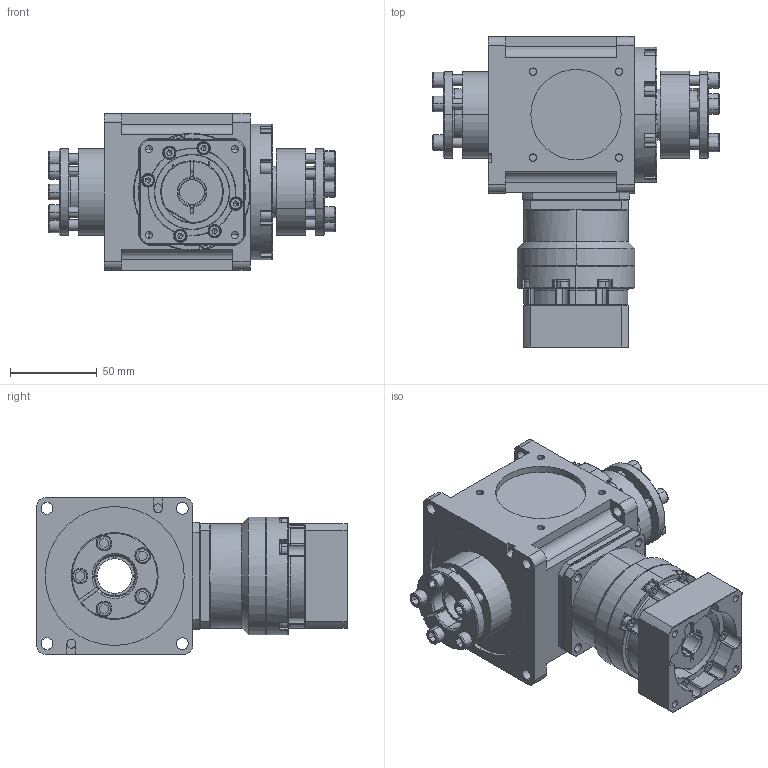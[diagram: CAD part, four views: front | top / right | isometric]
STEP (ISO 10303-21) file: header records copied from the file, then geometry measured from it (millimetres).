
FILE_DESCRIPTION (( 'STEP AP214' ), '1' );
FILE_NAME ('CCW090A-L1(6-20)-2HP 14-50-70-M5.STEP', '2025-06-03T02:51:14', ( '微软用户' ), ( '微软中国' ), 'SwSTEP 2.0', 'SolidWorks 2024', '' );
FILE_SCHEMA (( 'AUTOMOTIVE_DESIGN' ));
Length unit declared in the file: millimetre
Products named in the file (4): CCW090A-002-2HP箱体; 涨紧套[24×50]_ZJ3-24×50; CCW090A-L1(6-20)-2HP 14-50-70-M5; VRB-060-L1-S2-P1 14-50-70-M5
Assembly tree (4 placements, depth 2):
  CCW090A-L1(6-20)-2HP 14-50-70-M5
    CCW090A-002-2HP箱体
    涨紧套[24×50]_ZJ3-24×50  x2
    VRB-060-L1-S2-P1 14-50-70-M5
Bounding box: 165 x 179 x 90 mm (x, y, z)
Volume: 947027.7 mm3; surface area: 180475.8 mm2
Topology: 47 solids, 47 shells, 1788 faces, 4399 edges, 2765 vertices
Faces by surface type: plane 701, cylinder 666, cone 276, torus 93, bspline 32, sphere 20
Entity records: 49761 total; most frequent: CARTESIAN_POINT 9888, DIRECTION 8726, ORIENTED_EDGE 7932, EDGE_CURVE 3966, AXIS2_PLACEMENT_3D 3426, VERTEX_POINT 2523, VECTOR 1874, LINE 1874
